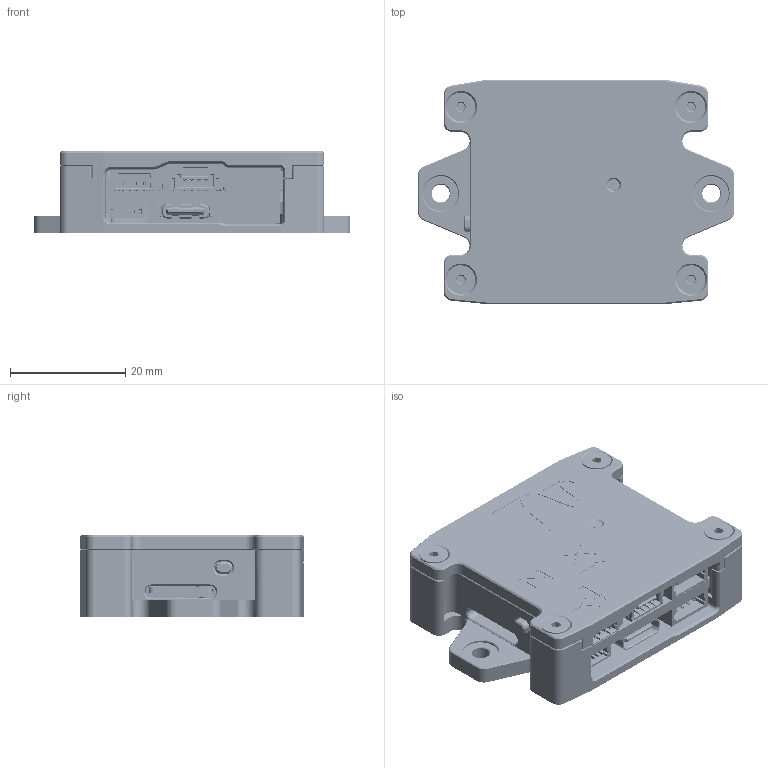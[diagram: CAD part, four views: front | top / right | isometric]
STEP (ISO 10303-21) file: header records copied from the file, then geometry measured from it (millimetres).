
FILE_DESCRIPTION(/* description */ (''),/* implementation_level */ '2;1');
FILE_NAME(/* name */ 'Split_Sensor_Assembled_Pub v3.step',/* time_stamp */ '2025-05-14T17:43:22+03:00',/* author */ (''),/* organization */ (''),/* preprocessor_version */ 'ST-DEVELOPER v20.1',/* originating_system */ 'Autodesk Translation Framework v14.4.0.0',/* authorisation */ '');
FILE_SCHEMA (('AUTOMOTIVE_DESIGN { 1 0 10303 214 3 1 1 }'));
Products named in the file (192): GPS_IMU_Split_Module_Case_4; Винт потай 
М2.5х10 титан; Винт потай 
М2.5х10 титан v2(Mirror); Винт потай М2.5
х10 титан v2(Mirror) (1); Винт потай М2.5
х10 титан v2(Mirror)(Mirror); PCB; Board; U2; LQFP64_ed; P8; Molex_5055501020_(socket); C39; C33; C38; XTAL1; CSYTAL-MC146; XTAL2; 8MHz_3.2x2.5_crystal; VD1; APHB1608; U1; MS561101BA03-50; U6; 6199254784; Extruded; U3; MMC5983MA; U4; 8-TDFN_2x3; U5; 6199254592; Extruded_1; 6199254208; Cylinder; SB2; STP_4351x10148xx_(rev1); Base; Stem; Frame; Pin ...
Assembly tree (284 placements, depth 7):
  GPS_IMU_Split_Module_Case_4
    Винт потай 
М2.5х10 титан
    Винт потай 
М2.5х10 титан v2(Mirror)
    Винт потай 
М2.5х8 титан Pan Head  x2
    Винт потай М2.5
х10 титан v2(Mirror) (1)
    Винт потай М2.5
х10 титан v2(Mirror)(Mirror)
    PCB
      Board
      U2
        LQFP64_ed
      P8
        Molex_5055501020_(socket)
      C39
        0402C
      C33
        0402C
      C38
        0402C
      XTAL1
        CSYTAL-MC146
      XTAL2
        8MHz_3.2x2.5_crystal
      VD1
        APHB1608
      U1
        MS561101BA03-50
      U6
        6199254784
          Extruded
      U3
        MMC5983MA
      U4
        8-TDFN_2x3
      U5
        6199254592
          Extruded_1
        6199254208
          Cylinder
      SB2
        STP_4351x10148xx_(rev1)
          Base
          Stem
          Frame
          Pin  x4
      SB1
        EVP-AKE31A_v0
      R25
        CR1005-0402
      R13
        CR1005-0402
      R5
        CR1005-0402
      R3
        CR1005-0402
      R1
        CR1005-0402
      R19
        L0402
      R17
        CR1005-0402
Bounding box: 55 x 39 x 14.2 mm (x, y, z)
Volume: 15497.6 mm3; surface area: 21695.4 mm2
Topology: 457 solids, 476 shells, 13531 faces, 34652 edges, 22154 vertices
Faces by surface type: plane 8383, cylinder 3057, bspline 1677, cone 224, torus 104, sphere 86
Full cylindrical faces by diameter (mm): 0.04 x26, 0.15 x1, 0.2 x1, 0.3 x2, 0.4 x24, 0.5 x3, 0.55 x2, 0.6 x2, 0.7 x2, 0.75 x1, 1 x2, 1.7 x1, 1.85 x1, 1.917 x92, 2 x1, 2.05 x7, 2.43 x88, 2.6 x6, 3.1 x2, 3.2 x1, 4.5 x2, 5 x4, 6.1 x2
Entity records: 376368 total; most frequent: CARTESIAN_POINT 150444, ORIENTED_EDGE 47396, DIRECTION 43058, EDGE_CURVE 23698, LINE 17762, VECTOR 17762, VERTEX_POINT 15518, AXIS2_PLACEMENT_3D 12648
